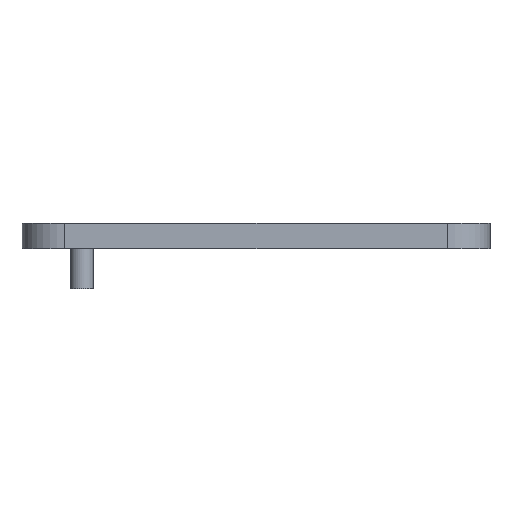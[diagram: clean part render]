
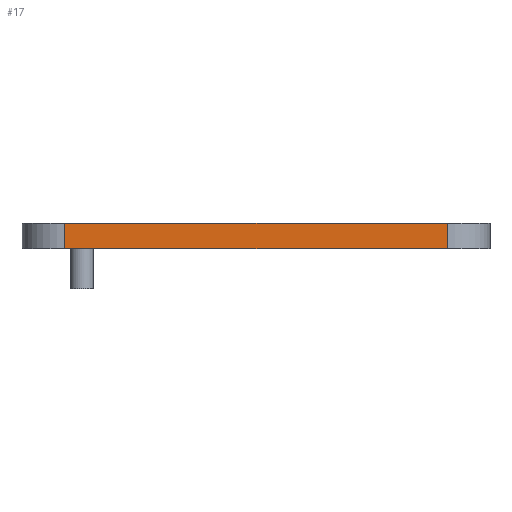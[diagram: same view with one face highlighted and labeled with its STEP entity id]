
A CAD part, left-side view. The second image highlights one B-rep face of the part: STEP entity #17.
In plain terms, the highlighted planar face has unit normal (-1, 0, 0).
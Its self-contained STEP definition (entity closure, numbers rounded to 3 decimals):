
#17 = ADVANCED_FACE('',(#18),#32,.F.);
#18 = FACE_BOUND('',#19,.F.);
#19 = EDGE_LOOP('',(#20,#55,#83,#111));
#20 = ORIENTED_EDGE('',*,*,#21,.F.);
#21 = EDGE_CURVE('',#22,#24,#26,.T.);
#22 = VERTEX_POINT('',#23);
#23 = CARTESIAN_POINT('',(0.,10.,40.));
#24 = VERTEX_POINT('',#25);
#25 = CARTESIAN_POINT('',(0.,100.,40.));
#26 = SURFACE_CURVE('',#27,(#31,#43),.PCURVE_S1.);
#27 = LINE('',#28,#29);
#28 = CARTESIAN_POINT('',(0.,0.,40.));
#29 = VECTOR('',#30,1.);
#30 = DIRECTION('',(0.,1.,0.));
#31 = PCURVE('',#32,#37);
#32 = PLANE('',#33);
#33 = AXIS2_PLACEMENT_3D('',#34,#35,#36);
#34 = CARTESIAN_POINT('',(0.,0.,34.));
#35 = DIRECTION('',(1.,0.,0.));
#36 = DIRECTION('',(0.,0.,1.));
#37 = DEFINITIONAL_REPRESENTATION('',(#38),#42);
#38 = LINE('',#39,#40);
#39 = CARTESIAN_POINT('',(6.,0.));
#40 = VECTOR('',#41,1.);
#41 = DIRECTION('',(0.,-1.));
#42 = ( GEOMETRIC_REPRESENTATION_CONTEXT(2) 
PARAMETRIC_REPRESENTATION_CONTEXT() REPRESENTATION_CONTEXT('2D SPACE',''
  ) );
#43 = PCURVE('',#44,#49);
#44 = PLANE('',#45);
#45 = AXIS2_PLACEMENT_3D('',#46,#47,#48);
#46 = CARTESIAN_POINT('',(0.,0.,40.));
#47 = DIRECTION('',(0.,0.,1.));
#48 = DIRECTION('',(1.,0.,0.));
#49 = DEFINITIONAL_REPRESENTATION('',(#50),#54);
#50 = LINE('',#51,#52);
#51 = CARTESIAN_POINT('',(0.,0.));
#52 = VECTOR('',#53,1.);
#53 = DIRECTION('',(0.,1.));
#54 = ( GEOMETRIC_REPRESENTATION_CONTEXT(2) 
PARAMETRIC_REPRESENTATION_CONTEXT() REPRESENTATION_CONTEXT('2D SPACE',''
  ) );
#55 = ORIENTED_EDGE('',*,*,#56,.F.);
#56 = EDGE_CURVE('',#57,#22,#59,.T.);
#57 = VERTEX_POINT('',#58);
#58 = CARTESIAN_POINT('',(0.,10.,34.));
#59 = SURFACE_CURVE('',#60,(#64,#71),.PCURVE_S1.);
#60 = LINE('',#61,#62);
#61 = CARTESIAN_POINT('',(0.,10.,34.));
#62 = VECTOR('',#63,1.);
#63 = DIRECTION('',(0.,0.,1.));
#64 = PCURVE('',#32,#65);
#65 = DEFINITIONAL_REPRESENTATION('',(#66),#70);
#66 = LINE('',#67,#68);
#67 = CARTESIAN_POINT('',(0.,-10.));
#68 = VECTOR('',#69,1.);
#69 = DIRECTION('',(1.,0.));
#70 = ( GEOMETRIC_REPRESENTATION_CONTEXT(2) 
PARAMETRIC_REPRESENTATION_CONTEXT() REPRESENTATION_CONTEXT('2D SPACE',''
  ) );
#71 = PCURVE('',#72,#77);
#72 = CYLINDRICAL_SURFACE('',#73,10.);
#73 = AXIS2_PLACEMENT_3D('',#74,#75,#76);
#74 = CARTESIAN_POINT('',(10.,10.,34.));
#75 = DIRECTION('',(0.,0.,1.));
#76 = DIRECTION('',(-1.,-0.,0.));
#77 = DEFINITIONAL_REPRESENTATION('',(#78),#82);
#78 = LINE('',#79,#80);
#79 = CARTESIAN_POINT('',(0.,0.));
#80 = VECTOR('',#81,1.);
#81 = DIRECTION('',(0.,1.));
#82 = ( GEOMETRIC_REPRESENTATION_CONTEXT(2) 
PARAMETRIC_REPRESENTATION_CONTEXT() REPRESENTATION_CONTEXT('2D SPACE',''
  ) );
#83 = ORIENTED_EDGE('',*,*,#84,.T.);
#84 = EDGE_CURVE('',#57,#85,#87,.T.);
#85 = VERTEX_POINT('',#86);
#86 = CARTESIAN_POINT('',(0.,100.,34.));
#87 = SURFACE_CURVE('',#88,(#92,#99),.PCURVE_S1.);
#88 = LINE('',#89,#90);
#89 = CARTESIAN_POINT('',(0.,0.,34.));
#90 = VECTOR('',#91,1.);
#91 = DIRECTION('',(0.,1.,0.));
#92 = PCURVE('',#32,#93);
#93 = DEFINITIONAL_REPRESENTATION('',(#94),#98);
#94 = LINE('',#95,#96);
#95 = CARTESIAN_POINT('',(0.,0.));
#96 = VECTOR('',#97,1.);
#97 = DIRECTION('',(0.,-1.));
#98 = ( GEOMETRIC_REPRESENTATION_CONTEXT(2) 
PARAMETRIC_REPRESENTATION_CONTEXT() REPRESENTATION_CONTEXT('2D SPACE',''
  ) );
#99 = PCURVE('',#100,#105);
#100 = PLANE('',#101);
#101 = AXIS2_PLACEMENT_3D('',#102,#103,#104);
#102 = CARTESIAN_POINT('',(0.,0.,34.));
#103 = DIRECTION('',(0.,0.,1.));
#104 = DIRECTION('',(1.,0.,0.));
#105 = DEFINITIONAL_REPRESENTATION('',(#106),#110);
#106 = LINE('',#107,#108);
#107 = CARTESIAN_POINT('',(0.,0.));
#108 = VECTOR('',#109,1.);
#109 = DIRECTION('',(0.,1.));
#110 = ( GEOMETRIC_REPRESENTATION_CONTEXT(2) 
PARAMETRIC_REPRESENTATION_CONTEXT() REPRESENTATION_CONTEXT('2D SPACE',''
  ) );
#111 = ORIENTED_EDGE('',*,*,#112,.T.);
#112 = EDGE_CURVE('',#85,#24,#113,.T.);
#113 = SURFACE_CURVE('',#114,(#118,#125),.PCURVE_S1.);
#114 = LINE('',#115,#116);
#115 = CARTESIAN_POINT('',(0.,100.,34.));
#116 = VECTOR('',#117,1.);
#117 = DIRECTION('',(0.,0.,1.));
#118 = PCURVE('',#32,#119);
#119 = DEFINITIONAL_REPRESENTATION('',(#120),#124);
#120 = LINE('',#121,#122);
#121 = CARTESIAN_POINT('',(0.,-100.));
#122 = VECTOR('',#123,1.);
#123 = DIRECTION('',(1.,0.));
#124 = ( GEOMETRIC_REPRESENTATION_CONTEXT(2) 
PARAMETRIC_REPRESENTATION_CONTEXT() REPRESENTATION_CONTEXT('2D SPACE',''
  ) );
#125 = PCURVE('',#126,#131);
#126 = CYLINDRICAL_SURFACE('',#127,10.);
#127 = AXIS2_PLACEMENT_3D('',#128,#129,#130);
#128 = CARTESIAN_POINT('',(10.,100.,34.));
#129 = DIRECTION('',(0.,0.,1.));
#130 = DIRECTION('',(-1.,-0.,0.));
#131 = DEFINITIONAL_REPRESENTATION('',(#132),#136);
#132 = LINE('',#133,#134);
#133 = CARTESIAN_POINT('',(-0.,0.));
#134 = VECTOR('',#135,1.);
#135 = DIRECTION('',(-0.,1.));
#136 = ( GEOMETRIC_REPRESENTATION_CONTEXT(2) 
PARAMETRIC_REPRESENTATION_CONTEXT() REPRESENTATION_CONTEXT('2D SPACE',''
  ) );
